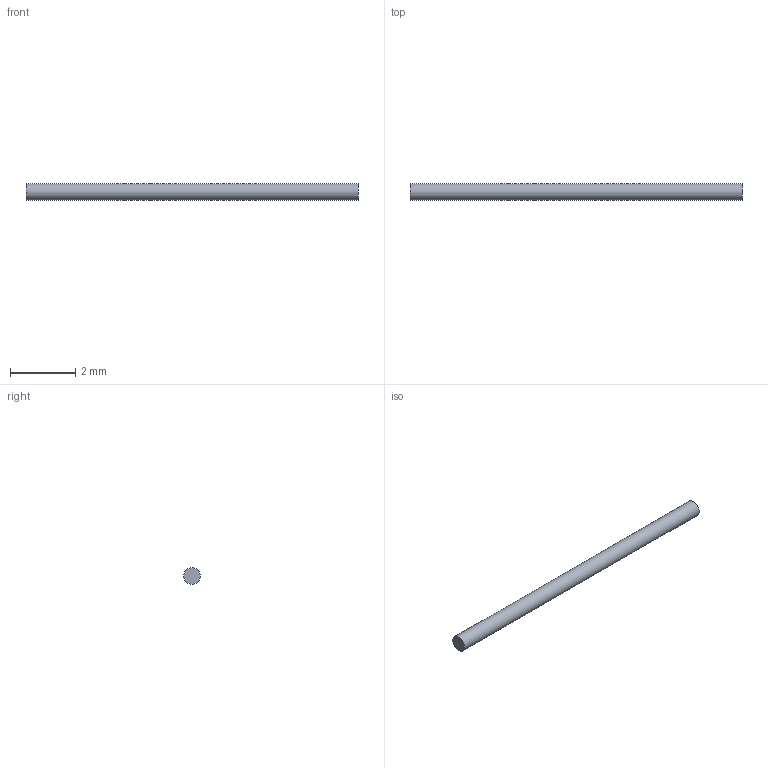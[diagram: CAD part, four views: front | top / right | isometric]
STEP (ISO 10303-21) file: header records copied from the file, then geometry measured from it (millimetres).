
FILE_DESCRIPTION(('FreeCAD Model'),'2;1');
FILE_NAME('Open CASCADE Shape Model','2026-04-07T19:07:43',('FreeCAD'),( 'FreeCAD'),'Open CASCADE STEP processor 7.8','FreeCAD','Unknown');
FILE_SCHEMA(('AUTOMOTIVE_DESIGN { 1 0 10303 214 1 1 1 1 }'));
Length unit declared in the file: millimetre
Products named in the file (1): Open CASCADE STEP translator 7.8 19
Bounding box: 10.16 x 0.5 x 0.5 mm (x, y, z)
Volume: 2 mm3; surface area: 16.4 mm2
Topology: 1 solids, 1 shells, 3 faces, 3 edges, 2 vertices
Faces by surface type: plane 2, cylinder 1
Full cylindrical faces by diameter (mm): 0.5 x1
Entity records: 69 total; most frequent: DIRECTION 13, CARTESIAN_POINT 9, AXIS2_PLACEMENT_3D 6, ORIENTED_EDGE 6, ADVANCED_FACE 3, FACE_BOUND 3, EDGE_LOOP 3, EDGE_CURVE 3
